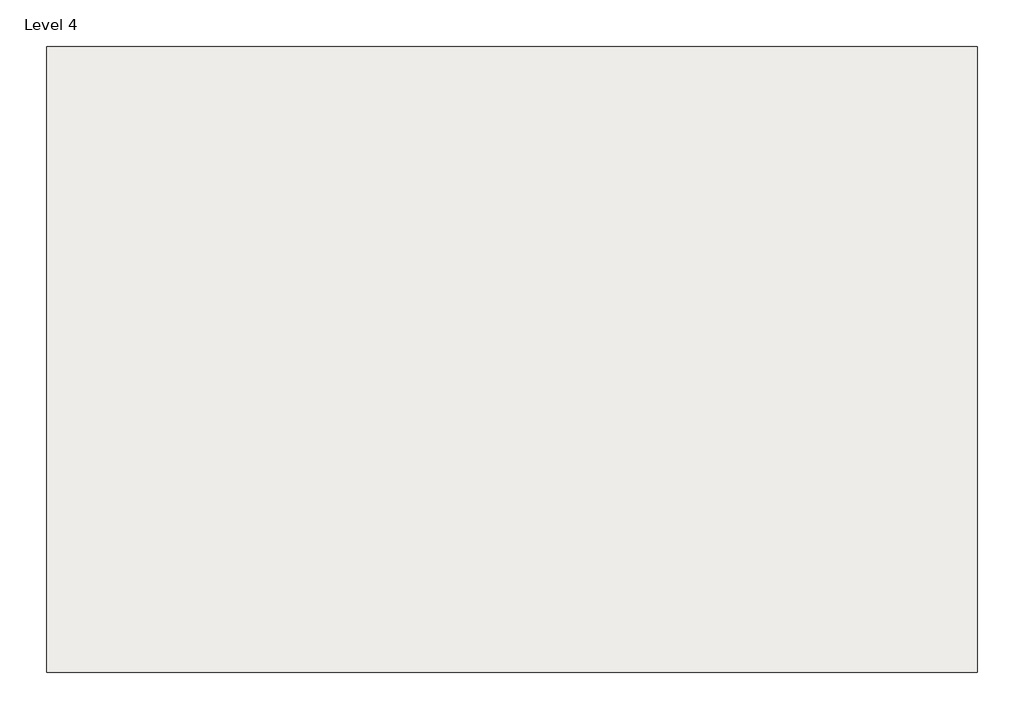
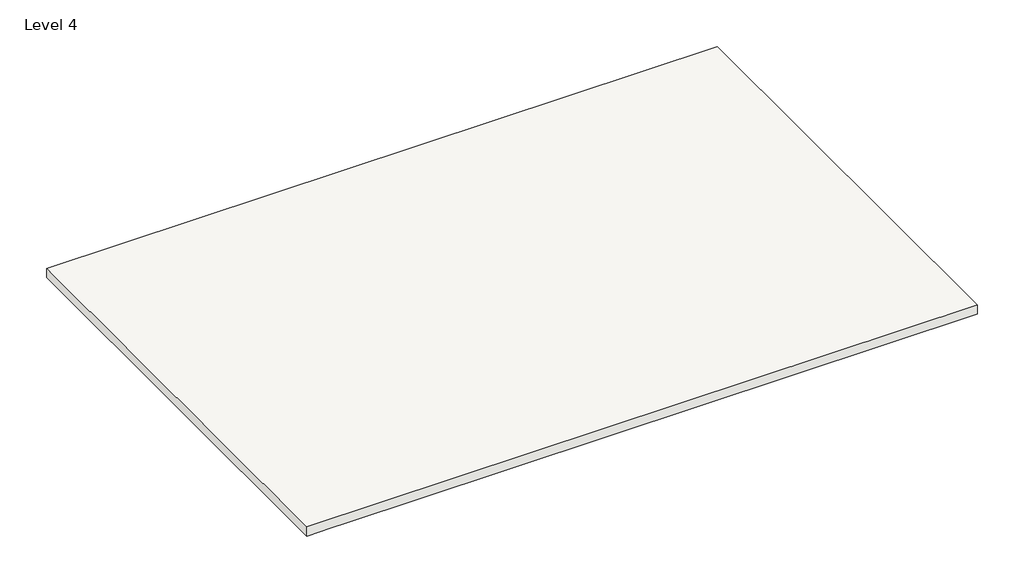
# One storey: 1 slab.
"""IFC4 building model written with IfcOpenShell, lengths in millimetres."""

from ifc_helpers import new_model, si_unit, origin, place, context, project, spatial, faceted_brep, element, save

model = new_model("IFC4")

# Units and contexts
model_context = context("Model", 3, world=origin())
ifc_project = project(units=[si_unit("LENGTHUNIT", "METRE", prefix="MILLI")], contexts=[model_context])

# Site, building, storey
site = spatial("IfcSite", under=ifc_project)
building = spatial("IfcBuilding", under=site)
storey = spatial("IfcBuildingStorey", under=building, Name="Level 4", Elevation=9000.0)

# Slab
placement = place(None, origin())
element("IfcSlab", 1, ObjectType="Concrete Slab 20 cm", at=placement, inside=storey, context=model_context, shape_type="Brep", body=[
    faceted_brep([(-7368.1210397, -663.8455619, 8800.0), (-6868.1210397, -663.8455619, 8800.0), (-6618.1210397, -663.8455619, 8800.0), (-3368.1210397, -663.8455619, 8800.0), (-3118.1210397, -663.8455619, 8800.0), (6381.8789603, -663.8455619, 8800.0), (6381.8789603, -9913.8455619, 8800.0), (-3118.1210397, -9913.8455619, 8800.0), (-3368.1210397, -9913.8455619, 8800.0), (-6618.1210397, -9913.8455619, 8800.0), (-6868.1210397, -9913.8455619, 8800.0), (-7368.1210397, -9913.8455619, 8800.0), (-7368.1210397, -663.8455619, 9000.0), (-7368.1210397, -9913.8455619, 9000.0), (6381.8789603, -9913.8455619, 9000.0), (6381.8789603, -663.8455619, 9000.0)], [[[0, 1, 2, 3, 4, 5, 6, 7, 8, 9, 10, 11]], [[12, 13, 14, 15]], [[5, 4, 3, 2, 1, 0, 12, 15]], [[6, 5, 15, 14]], [[11, 10, 9, 8, 7, 6, 14, 13]], [[0, 11, 13, 12]]]),
])

save(model, "model.ifc")
